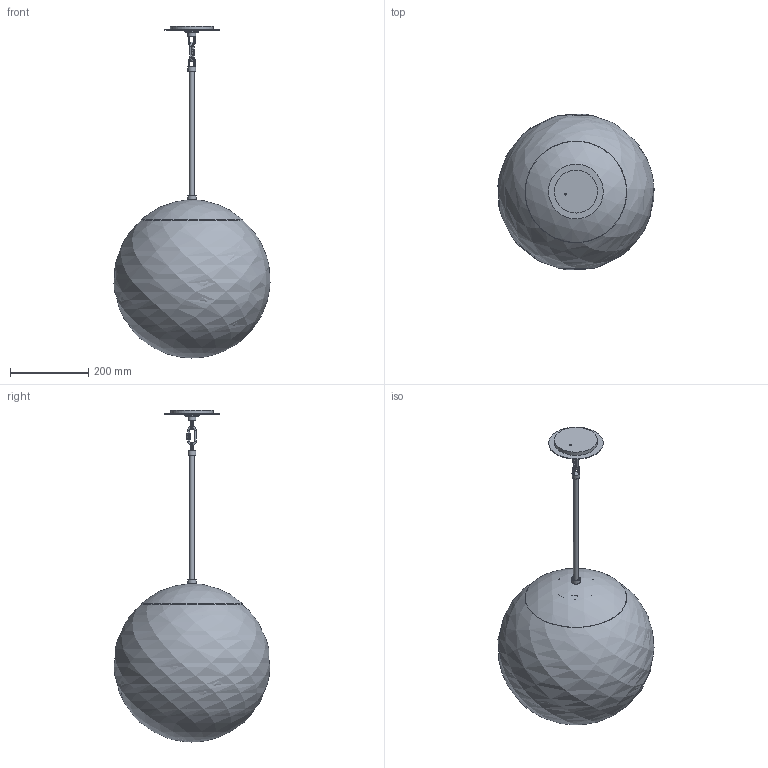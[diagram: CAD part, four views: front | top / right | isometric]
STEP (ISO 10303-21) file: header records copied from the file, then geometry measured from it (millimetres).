
FILE_DESCRIPTION(/* description */ (''),/* implementation_level */ '2;1');
FILE_NAME(/* name */ 'T:\B199 Opal Pendant 400\Pliki bryłowe handlowe\B199 Glass Globe Opal 400 3D files_na stronę\B199 Glass Globe Opal 400.stp',/* time_stamp */ '2022-02-02T15:14:52+01:00',/* author */ ('Mariusz Awariusz'),/* organization */ (''),/* preprocessor_version */ 'ST-DEVELOPER v18.1',/* originating_system */ 'Autodesk Inventor 2022',/* authorisation */ '');
FILE_SCHEMA (('AUTOMOTIVE_DESIGN { 1 0 10303 214 3 1 1 }'));
Length unit declared in the file: millimetre
Products named in the file (1): B199 Opal Pendant 400 CE v7_na potrzeby plików 3D_2_jako część_
korpusy bryłowe
Bounding box: 399.04 x 398.51 x 848.66 mm (x, y, z)
Volume: 1234878.9 mm3; surface area: 1192116 mm2
Topology: 16 solids, 17 shells, 242 faces, 534 edges, 322 vertices
Faces by surface type: plane 118, cylinder 70, cone 25, torus 15, bspline 10, sphere 4
Full cylindrical faces by diameter (mm): 4 x1, 5 x5, 10 x1, 13 x1, 14.6 x1, 16 x2, 16.2 x1, 20 x2, 22 x1, 34.5 x1, 36 x1, 110 x1, 120.221 x1, 140 x1
Entity records: 6875 total; most frequent: CARTESIAN_POINT 1527, DIRECTION 1153, ORIENTED_EDGE 1060, EDGE_CURVE 530, AXIS2_PLACEMENT_3D 446, VERTEX_POINT 322, LINE 261, VECTOR 261
